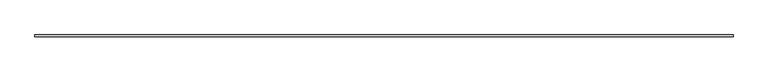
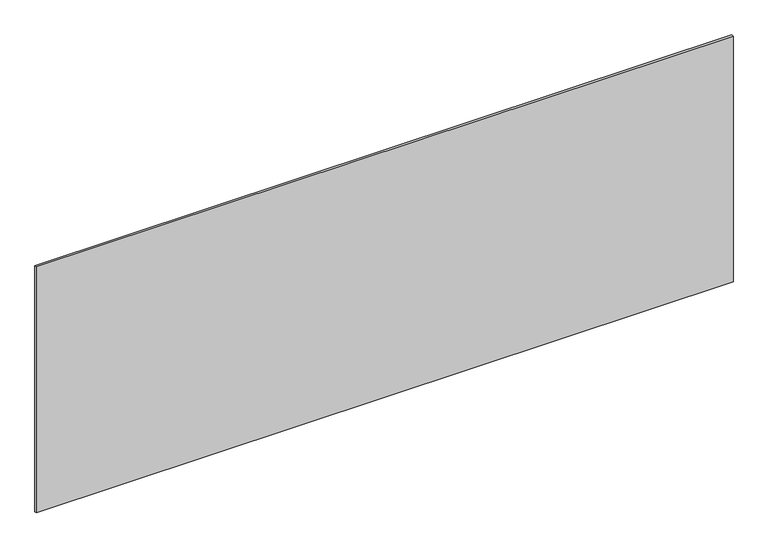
"""IFC4 building model written with IfcOpenShell, lengths in millimetres: plate geometry, システム パネル : 標準."""

import ifcopenshell
import ifcopenshell.guid

model = None  # the IFC model being written
_history = None  # IfcOwnerHistory: only IFC2X3 demands one
_inside = {}  # id of a spatial element -> (the spatial element, [elements in it])
_under = {}  # id of a project, library or spatial element -> (it, [spatial elements below it])
_declared = {}  # id of a project -> (the project, [libraries it declares])
_typed = {}  # id of a type object -> (the type object, [elements of that type])
_made_of = {}  # id of a material, layer set ... -> (it, [elements and type objects made of it])


def new_model(schema):
    """Start an empty IFC model of exactly this schema.

    Asked for "IFC4X3", IfcOpenShell would pick the latest addendum, in which some entities
    have other attributes; the version numbers below select the first issue.
    IFC2X3 requires an IfcOwnerHistory on every rooted entity: one is made here for all.
    """
    global model, _history
    if schema == "IFC4X3":
        model = ifcopenshell.file(schema_version=(4, 3, 0, 0))
    else:
        model = ifcopenshell.file(schema=schema)
    _inside.clear()
    _under.clear()
    _declared.clear()
    _typed.clear()
    _made_of.clear()
    _history = None
    if model.schema == "IFC2X3":
        org = make("IfcOrganization", Name="unknown")
        user = make(
            "IfcPersonAndOrganization",
            ThePerson=make("IfcPerson", FamilyName="unknown"),
            TheOrganization=org,
        )
        app = make(
            "IfcApplication",
            ApplicationDeveloper=org,
            Version="unknown",
            ApplicationFullName="unknown",
            ApplicationIdentifier="unknown",
        )
        _history = make(
            "IfcOwnerHistory",
            OwningUser=user,
            OwningApplication=app,
            ChangeAction="ADDED",
            CreationDate=0,
        )
    return model


def make(cls, **values):
    """One entity of the class cls with the attributes given. An attribute that is None is left unset."""
    return model.create_entity(
        cls, **{name: value for name, value in values.items() if value is not None}
    )


def rooted(cls, **values):
    """An entity with a GlobalId (a new one), such as an element, a storey or a relation."""
    return make(cls, GlobalId=ifcopenshell.guid.new(), OwnerHistory=_history, **values)


def si_unit(unit_type, name, prefix=None):
    """IfcSIUnit, for example si_unit("LENGTHUNIT", "METRE", prefix="MILLI")."""
    return make("IfcSIUnit", UnitType=unit_type, Prefix=prefix, Name=name)


def assignment(units):
    """IfcUnitAssignment: the units of a project."""
    return None if units is None else make("IfcUnitAssignment", Units=units)


def point(xyz):
    """IfcCartesianPoint."""
    return None if xyz is None else make("IfcCartesianPoint", Coordinates=xyz)


def direction(xyz):
    """IfcDirection."""
    return None if xyz is None else make("IfcDirection", DirectionRatios=xyz)


def frame(location, z_axis=None, x_axis=None):
    """IfcAxis2Placement3D, a coordinate frame: its origin and axes. An axis left out is left unset."""
    return make(
        "IfcAxis2Placement3D",
        Location=point(location),
        Axis=direction(z_axis),
        RefDirection=direction(x_axis),
    )


def origin():
    """The frame at (0, 0, 0) with its axes left unset."""
    return frame((0.0, 0.0, 0.0))


def origin_with_axes():
    """The frame at (0, 0, 0) with the z axis (0, 0, 1) and the x axis (1, 0, 0) written out."""
    return frame((0.0, 0.0, 0.0), z_axis=(0.0, 0.0, 1.0), x_axis=(1.0, 0.0, 0.0))


def place(relative_to, where):
    """IfcLocalPlacement: puts the frame where relative to a parent placement (None: the world)."""
    return make(
        "IfcLocalPlacement", PlacementRelTo=relative_to, RelativePlacement=where
    )


def context(
    kind, dimensions, precision=None, world=None, true_north=None, identifier=None
):
    """IfcGeometricRepresentationContext, for example the 3D "Model" context."""
    return make(
        "IfcGeometricRepresentationContext",
        ContextIdentifier=identifier,
        ContextType=kind,
        CoordinateSpaceDimension=dimensions,
        Precision=precision,
        WorldCoordinateSystem=world,
        TrueNorth=true_north,
    )


def project(units=None, contexts=None):
    """IfcProject with its units and contexts."""
    return rooted(
        "IfcProject",
        Name="project",
        RepresentationContexts=contexts,
        UnitsInContext=assignment(units),
    )


def spatial(cls, under=None, at=None, **own):
    """A site, building, storey or space (cls), placed at a placement, below another one or the project."""
    s = rooted(cls, ObjectPlacement=at, **own)
    if under is not None:
        _under.setdefault(under.id(), (under, []))[1].append(s)
    return s


def polyline(points):
    """IfcPolyline through the points."""
    return make("IfcPolyline", Points=[point(p) for p in points])


def outline(outer, holes=None, kind="AREA"):
    """IfcArbitraryClosedProfileDef: a profile drawn as a closed curve; with holes, ...WithVoids."""
    if holes is None:
        return make("IfcArbitraryClosedProfileDef", ProfileType=kind, OuterCurve=outer)
    return make(
        "IfcArbitraryProfileDefWithVoids",
        ProfileType=kind,
        OuterCurve=outer,
        InnerCurves=holes,
    )


def extrude(swept, where, along, depth):
    """IfcExtrudedAreaSolid: the profile swept, set in the frame where, extruded along a direction by depth."""
    return make(
        "IfcExtrudedAreaSolid",
        SweptArea=swept,
        Position=where,
        ExtrudedDirection=direction(along),
        Depth=depth,
    )


def shape(context_of_items, identifier, shape_type, items):
    """IfcShapeRepresentation: the items that make up one representation, for example the "Body"."""
    return make(
        "IfcShapeRepresentation",
        ContextOfItems=context_of_items,
        RepresentationIdentifier=identifier,
        RepresentationType=shape_type,
        Items=items,
    )


def source(mapping_origin, context_of_items, identifier, shape_type, items):
    """IfcRepresentationMap: a shape defined once, which mapped items show again and again."""
    return make(
        "IfcRepresentationMap",
        MappingOrigin=mapping_origin,
        MappedRepresentation=shape(context_of_items, identifier, shape_type, items),
    )


def transform(
    local_origin,
    x_axis=None,
    y_axis=None,
    z_axis=None,
    scale=None,
    scale2=None,
    scale3=None,
    uniform=True,
):
    """IfcCartesianTransformationOperator3D, or its non-uniform kind. x_axis, y_axis, z_axis: its Axis1, 2, 3."""
    if uniform:
        return make(
            "IfcCartesianTransformationOperator3D",
            Axis1=direction(x_axis),
            Axis2=direction(y_axis),
            LocalOrigin=point(local_origin),
            Scale=scale,
            Axis3=direction(z_axis),
        )
    return make(
        "IfcCartesianTransformationOperator3DnonUniform",
        Axis1=direction(x_axis),
        Axis2=direction(y_axis),
        LocalOrigin=point(local_origin),
        Scale=scale,
        Axis3=direction(z_axis),
        Scale2=scale2,
        Scale3=scale3,
    )


def mapped(mapping_source, mapping_target):
    """IfcMappedItem: shows the shape of a source again, moved by a transform."""
    return make(
        "IfcMappedItem", MappingSource=mapping_source, MappingTarget=mapping_target
    )


def made_of(thing, what):
    """Note that an element or type object is made of a material, layer set ...; save() writes the relation."""
    if what is not None:
        _made_of.setdefault(what.id(), (what, []))[1].append(thing)
    return thing


def element(
    cls,
    number,
    at=None,
    inside=None,
    cuts=None,
    type_object=None,
    material=None,
    context=None,
    identifier="Body",
    shape_type=None,
    held_by="IfcProductDefinitionShape",
    body=None,
    shapes=None,
    **own,
):
    """One element of the class cls, such as IfcWall. Its Tag is "e" and its number.

    at: its placement. inside: the storey or other place that contains it. cuts: it is an
    opening in that element (IfcRelVoidsElement). A single representation is given by context,
    identifier, shape_type and body (its items); several are given by shapes. held_by: the class
    of the entity that holds the representations. save() writes the other relations.
    """
    e = rooted(cls, Tag="e%d" % number, ObjectPlacement=at, **own)
    if body is not None:
        shapes = [shape(context, identifier, shape_type, body)]
    if shapes is not None:
        e.Representation = make(held_by, Representations=shapes)
    if inside is not None:
        _inside.setdefault(inside.id(), (inside, []))[1].append(e)
    if cuts is not None:
        rooted(
            "IfcRelVoidsElement", RelatingBuildingElement=cuts, RelatedOpeningElement=e
        )
    if type_object is not None:
        _typed.setdefault(type_object.id(), (type_object, []))[1].append(e)
    return made_of(e, material)


def aggregate(whole, parts):
    """IfcRelAggregates: a whole, such as a stair, and the parts it consists of."""
    return rooted("IfcRelAggregates", RelatingObject=whole, RelatedObjects=parts)


def save(model, path):
    """Write the relations noted so far, then the file.

    IfcRelAggregates (storeys below a building ...), IfcRelContainedInSpatialStructure (elements
    in a storey), IfcRelDefinesByType, IfcRelAssociatesMaterial and IfcRelDeclares: one each for
    every whole, place, type object, material and project.
    """
    for whole, parts in _under.values():
        aggregate(whole, parts)
    for where, things in _inside.values():
        rooted(
            "IfcRelContainedInSpatialStructure",
            RelatedElements=things,
            RelatingStructure=where,
        )
    for kind, things in _typed.values():
        rooted("IfcRelDefinesByType", RelatedObjects=things, RelatingType=kind)
    for what, things in _made_of.values():
        rooted("IfcRelAssociatesMaterial", RelatedObjects=things, RelatingMaterial=what)
    for by, libraries in _declared.values():
        rooted("IfcRelDeclares", RelatingContext=by, RelatedDefinitions=libraries)
    model.write(path)


def plate_48b88b42(model_context):
    return source(origin(), model_context, "Body", "SweptSolid", [
        extrude(outline(polyline([(1697.5, -5.0), (-1697.5, -5.0), (-1697.5, 5.0), (1697.5, 5.0), (1697.5, -5.0)])), origin_with_axes(), (0.0, 0.0, 1.0), 1265.8860683),
    ])


if __name__ == "__main__":
    model = new_model("IFC4")
    model_context = context("Model", 3, world=origin())
    ifc_project = project(units=[si_unit("LENGTHUNIT", "METRE", prefix="MILLI")], contexts=[model_context])
    site = spatial("IfcSite", under=ifc_project)
    building = spatial("IfcBuilding", under=site)
    placement = place(None, origin())
    plate_shape = plate_48b88b42(model_context)
    element("IfcPlate", 1, ObjectType="システム パネル : 標準", at=placement, inside=building, context=model_context, shape_type="MappedRepresentation", body=[
        mapped(plate_shape, transform((0.0, 0.0, 0.0), x_axis=(1.0, 0.0, 0.0), y_axis=(0.0, 1.0, 0.0), z_axis=(0.0, 0.0, 1.0))),
    ])
    save(model, "model.ifc")
